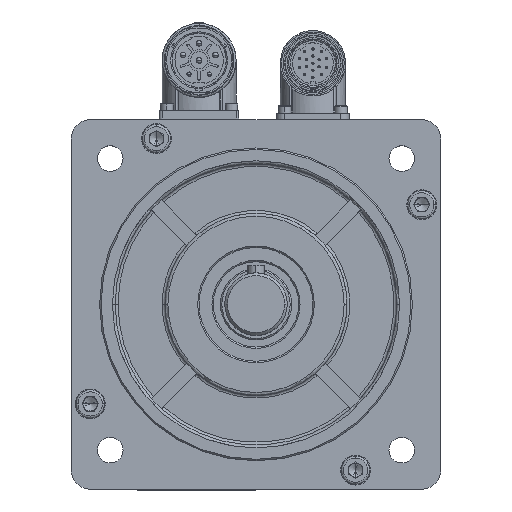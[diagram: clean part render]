
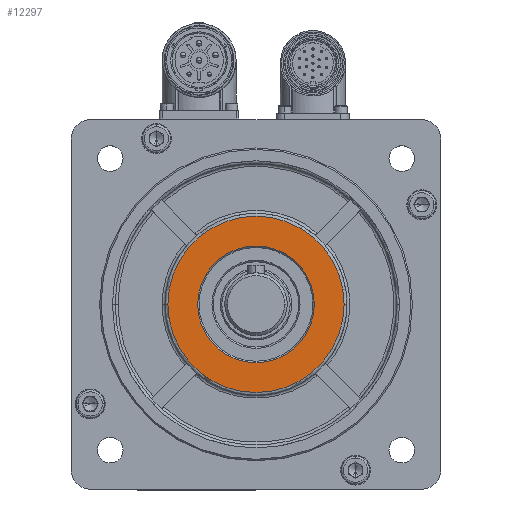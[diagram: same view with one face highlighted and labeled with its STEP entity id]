
A CAD part, top view. The second image highlights one B-rep face of the part: STEP entity #12297.
In plain terms, the highlighted planar face has unit normal (0, 0, 1).
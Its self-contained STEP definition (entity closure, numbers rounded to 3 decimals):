
#2174 = CIRCLE ( 'NONE', #14320, 20.5 ) ;
#4169 = ORIENTED_EDGE ( 'NONE', *, *, #36449, .T. ) ;
#5717 = CARTESIAN_POINT ( 'NONE',  ( 0., 0., 30.5 ) ) ;
#7639 = VERTEX_POINT ( 'NONE', #57906 ) ;
#9035 = AXIS2_PLACEMENT_3D ( 'NONE', #5717, #59406, #44768 ) ;
#10151 = CIRCLE ( 'NONE', #26179, 31. ) ;
#10817 = CIRCLE ( 'NONE', #31634, 31. ) ;
#12297 = ADVANCED_FACE ( 'NONE', ( #48402, #21112 ), #15607, .F. ) ;
#13426 = EDGE_CURVE ( 'NONE', #39848, #7639, #59550, .T. ) ;
#14320 = AXIS2_PLACEMENT_3D ( 'NONE', #43497, #37976, #52821 ) ;
#15607 = PLANE ( 'NONE',  #17547 ) ;
#17547 = AXIS2_PLACEMENT_3D ( 'NONE', #30261, #45235, #40592 ) ;
#18271 = EDGE_LOOP ( 'NONE', ( #46277, #4169 ) ) ;
#20476 = CARTESIAN_POINT ( 'NONE',  ( 31., 0., 30.5 ) ) ;
#20877 = VERTEX_POINT ( 'NONE', #20476 ) ;
#21112 = FACE_BOUND ( 'NONE', #25960, .T. ) ;
#25591 = DIRECTION ( 'NONE',  ( -1., 0., 0. ) ) ;
#25960 = EDGE_LOOP ( 'NONE', ( #52768, #53456 ) ) ;
#26179 = AXIS2_PLACEMENT_3D ( 'NONE', #44471, #49765, #25591 ) ;
#27047 = DIRECTION ( 'NONE',  ( 0., 0., 1. ) ) ;
#28687 = EDGE_CURVE ( 'NONE', #7639, #39848, #2174, .T. ) ;
#30261 = CARTESIAN_POINT ( 'NONE',  ( -58.113, -58.113, 30.5 ) ) ;
#31634 = AXIS2_PLACEMENT_3D ( 'NONE', #56084, #27047, #31954 ) ;
#31954 = DIRECTION ( 'NONE',  ( -1., 0., 0. ) ) ;
#36449 = EDGE_CURVE ( 'NONE', #20877, #60631, #10817, .T. ) ;
#37976 = DIRECTION ( 'NONE',  ( 0., 0., -1. ) ) ;
#39848 = VERTEX_POINT ( 'NONE', #49230 ) ;
#40592 = DIRECTION ( 'NONE',  ( -1., 0., 0. ) ) ;
#43497 = CARTESIAN_POINT ( 'NONE',  ( 0., 0., 30.5 ) ) ;
#44471 = CARTESIAN_POINT ( 'NONE',  ( 0., 0., 30.5 ) ) ;
#44768 = DIRECTION ( 'NONE',  ( -1., 0., 0. ) ) ;
#45235 = DIRECTION ( 'NONE',  ( 0., 0., -1. ) ) ;
#46277 = ORIENTED_EDGE ( 'NONE', *, *, #56657, .T. ) ;
#48402 = FACE_OUTER_BOUND ( 'NONE', #18271, .T. ) ;
#49230 = CARTESIAN_POINT ( 'NONE',  ( -20.5, 0., 30.5 ) ) ;
#49765 = DIRECTION ( 'NONE',  ( 0., 0., 1. ) ) ;
#52768 = ORIENTED_EDGE ( 'NONE', *, *, #28687, .T. ) ;
#52821 = DIRECTION ( 'NONE',  ( -1., 0., 0. ) ) ;
#53456 = ORIENTED_EDGE ( 'NONE', *, *, #13426, .T. ) ;
#56084 = CARTESIAN_POINT ( 'NONE',  ( 0., 0., 30.5 ) ) ;
#56389 = CARTESIAN_POINT ( 'NONE',  ( -31., 0., 30.5 ) ) ;
#56657 = EDGE_CURVE ( 'NONE', #60631, #20877, #10151, .T. ) ;
#57906 = CARTESIAN_POINT ( 'NONE',  ( 20.5, 0., 30.5 ) ) ;
#59406 = DIRECTION ( 'NONE',  ( 0., 0., -1. ) ) ;
#59550 = CIRCLE ( 'NONE', #9035, 20.5 ) ;
#60631 = VERTEX_POINT ( 'NONE', #56389 ) ;
